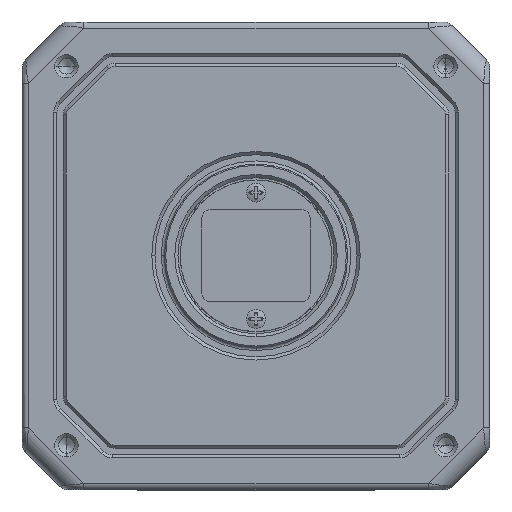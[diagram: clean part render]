
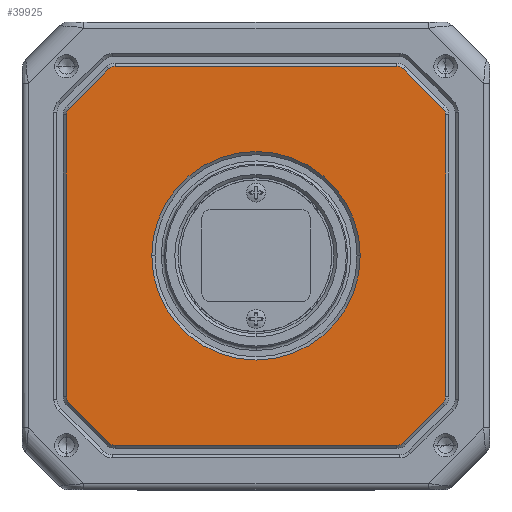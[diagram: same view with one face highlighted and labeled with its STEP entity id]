
A CAD part, top view. The second image highlights one B-rep face of the part: STEP entity #39925.
In plain terms, the highlighted planar face has unit normal (0, 0, 1).
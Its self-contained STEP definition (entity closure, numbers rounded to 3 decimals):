
#8772=CARTESIAN_POINT('',(28.5,-22.307,12.22));
#8773=DIRECTION('',(0.,0.,-1.));
#8774=DIRECTION('',(1.,0.,0.));
#8775=AXIS2_PLACEMENT_3D('',#8772,#8773,#8774);
#8777=DIRECTION('',(-0.707,-0.707,0.));
#8778=VECTOR('',#8777,8.758);
#8779=CARTESIAN_POINT('',(29.561,-23.368,12.22));
#8780=LINE('',#8779,#8778);
#8781=CARTESIAN_POINT('',(22.307,-28.5,12.22));
#8782=DIRECTION('',(0.,0.,-1.));
#8783=DIRECTION('',(0.707,-0.707,0.));
#8784=AXIS2_PLACEMENT_3D('',#8781,#8782,#8783);
#8786=DIRECTION('',(-1.,0.,0.));
#8787=VECTOR('',#8786,44.615);
#8788=CARTESIAN_POINT('',(22.307,-30.,12.22));
#8789=LINE('',#8788,#8787);
#8790=CARTESIAN_POINT('',(-22.307,-28.5,12.22));
#8791=DIRECTION('',(0.,0.,-1.));
#8792=DIRECTION('',(0.,-1.,0.));
#8793=AXIS2_PLACEMENT_3D('',#8790,#8791,#8792);
#8795=DIRECTION('',(-0.707,0.707,0.));
#8796=VECTOR('',#8795,8.758);
#8797=CARTESIAN_POINT('',(-23.368,-29.561,
12.22));
#8798=LINE('',#8797,#8796);
#8799=CARTESIAN_POINT('',(-28.5,-22.307,12.22));
#8800=DIRECTION('',(0.,0.,-1.));
#8801=DIRECTION('',(-0.707,-0.707,0.));
#8802=AXIS2_PLACEMENT_3D('',#8799,#8800,#8801);
#8804=DIRECTION('',(0.,1.,0.));
#8805=VECTOR('',#8804,44.615);
#8806=CARTESIAN_POINT('',(-30.,-22.307,
12.22));
#8807=LINE('',#8806,#8805);
#8808=CARTESIAN_POINT('',(-28.5,22.307,12.22));
#8809=DIRECTION('',(0.,0.,-1.));
#8810=DIRECTION('',(-1.,0.,0.));
#8811=AXIS2_PLACEMENT_3D('',#8808,#8809,#8810);
#8813=DIRECTION('',(0.707,0.707,0.));
#8814=VECTOR('',#8813,8.758);
#8815=CARTESIAN_POINT('',(-29.561,23.368,12.22));
#8816=LINE('',#8815,#8814);
#8817=CARTESIAN_POINT('',(-22.307,28.5,12.22));
#8818=DIRECTION('',(0.,0.,-1.));
#8819=DIRECTION('',(-0.707,0.707,0.));
#8820=AXIS2_PLACEMENT_3D('',#8817,#8818,#8819);
#8822=DIRECTION('',(1.,0.,0.));
#8823=VECTOR('',#8822,44.615);
#8824=CARTESIAN_POINT('',(-22.307,30.,12.22));
#8825=LINE('',#8824,#8823);
#8826=CARTESIAN_POINT('',(22.307,28.5,12.22));
#8827=DIRECTION('',(0.,0.,-1.));
#8828=DIRECTION('',(0.,1.,0.));
#8829=AXIS2_PLACEMENT_3D('',#8826,#8827,#8828);
#8831=DIRECTION('',(0.707,-0.707,0.));
#8832=VECTOR('',#8831,8.758);
#8833=CARTESIAN_POINT('',(23.368,29.561,12.22));
#8834=LINE('',#8833,#8832);
#8835=CARTESIAN_POINT('',(28.5,22.307,12.22));
#8836=DIRECTION('',(0.,0.,-1.));
#8837=DIRECTION('',(0.707,0.707,0.));
#8838=AXIS2_PLACEMENT_3D('',#8835,#8836,#8837);
#8840=DIRECTION('',(0.,-1.,0.));
#8841=VECTOR('',#8840,44.615);
#8842=CARTESIAN_POINT('',(30.,22.307,12.22));
#8843=LINE('',#8842,#8841);
#8844=CARTESIAN_POINT('',(0.,0.,12.22));
#8845=DIRECTION('',(0.,0.,1.));
#8846=DIRECTION('',(1.,0.,0.));
#8847=AXIS2_PLACEMENT_3D('',#8844,#8845,#8846);
#8849=CARTESIAN_POINT('',(0.,0.,12.22));
#8850=DIRECTION('',(0.,0.,1.));
#8851=DIRECTION('',(0.,1.,0.));
#8852=AXIS2_PLACEMENT_3D('',#8849,#8850,#8851);
#8854=CARTESIAN_POINT('',(0.,0.,12.22));
#8855=DIRECTION('',(0.,0.,1.));
#8856=DIRECTION('',(-1.,0.,0.));
#8857=AXIS2_PLACEMENT_3D('',#8854,#8855,#8856);
#8859=CARTESIAN_POINT('',(0.,0.,12.22));
#8860=DIRECTION('',(0.,0.,1.));
#8861=DIRECTION('',(0.,-1.,0.));
#8862=AXIS2_PLACEMENT_3D('',#8859,#8860,#8861);
#26217=CARTESIAN_POINT('',(30.,-22.307,12.22));
#26218=CARTESIAN_POINT('',(29.561,-23.368,12.22));
#26219=VERTEX_POINT('',#26217);
#26220=VERTEX_POINT('',#26218);
#26221=CARTESIAN_POINT('',(23.368,-29.561,
12.22));
#26222=VERTEX_POINT('',#26221);
#26223=CARTESIAN_POINT('',(22.307,-30.,12.22));
#26224=VERTEX_POINT('',#26223);
#26225=CARTESIAN_POINT('',(-22.307,-30.,
12.22));
#26226=VERTEX_POINT('',#26225);
#26227=CARTESIAN_POINT('',(-23.368,-29.561,12.22));
#26228=VERTEX_POINT('',#26227);
#26229=CARTESIAN_POINT('',(-29.561,-23.368,
12.22));
#26230=VERTEX_POINT('',#26229);
#26231=CARTESIAN_POINT('',(-30.,-22.307,12.22));
#26232=VERTEX_POINT('',#26231);
#26233=CARTESIAN_POINT('',(-30.,22.307,
12.22));
#26234=VERTEX_POINT('',#26233);
#26235=CARTESIAN_POINT('',(-29.561,23.368,12.22));
#26236=VERTEX_POINT('',#26235);
#26237=CARTESIAN_POINT('',(-23.368,29.561,
12.22));
#26238=VERTEX_POINT('',#26237);
#26239=CARTESIAN_POINT('',(-22.307,30.,12.22));
#26240=VERTEX_POINT('',#26239);
#26241=CARTESIAN_POINT('',(22.307,30.,12.22));
#26242=VERTEX_POINT('',#26241);
#26243=CARTESIAN_POINT('',(23.368,29.561,12.22));
#26244=VERTEX_POINT('',#26243);
#26245=CARTESIAN_POINT('',(29.561,23.368,12.22));
#26246=VERTEX_POINT('',#26245);
#26247=CARTESIAN_POINT('',(30.,22.307,12.22));
#26248=VERTEX_POINT('',#26247);
#26249=CARTESIAN_POINT('',(16.5,0.,12.22));
#26250=CARTESIAN_POINT('',(0.,16.5,12.22));
#26251=VERTEX_POINT('',#26249);
#26252=VERTEX_POINT('',#26250);
#26253=CARTESIAN_POINT('',(-16.5,0.,12.22));
#26254=VERTEX_POINT('',#26253);
#26255=CARTESIAN_POINT('',(0.,-16.5,12.22));
#26256=VERTEX_POINT('',#26255);
#39877=CARTESIAN_POINT('',(0.,0.,12.22));
#39878=DIRECTION('',(0.,0.,1.));
#39879=DIRECTION('',(0.,1.,0.));
#39880=AXIS2_PLACEMENT_3D('',#39877,#39878,#39879);
#39881=PLANE('',#39880);
#39882=ORIENTED_EDGE('',*,*,#39867,.T.);
#39884=ORIENTED_EDGE('',*,*,#39883,.T.);
#39886=ORIENTED_EDGE('',*,*,#39885,.T.);
#39888=ORIENTED_EDGE('',*,*,#39887,.T.);
#39890=ORIENTED_EDGE('',*,*,#39889,.T.);
#39892=ORIENTED_EDGE('',*,*,#39891,.T.);
#39894=ORIENTED_EDGE('',*,*,#39893,.T.);
#39896=ORIENTED_EDGE('',*,*,#39895,.T.);
#39898=ORIENTED_EDGE('',*,*,#39897,.T.);
#39900=ORIENTED_EDGE('',*,*,#39899,.T.);
#39902=ORIENTED_EDGE('',*,*,#39901,.T.);
#39904=ORIENTED_EDGE('',*,*,#39903,.T.);
#39906=ORIENTED_EDGE('',*,*,#39905,.T.);
#39908=ORIENTED_EDGE('',*,*,#39907,.T.);
#39910=ORIENTED_EDGE('',*,*,#39909,.T.);
#39912=ORIENTED_EDGE('',*,*,#39911,.T.);
#39913=EDGE_LOOP('',(#39882,#39884,#39886,#39888,#39890,#39892,#39894,#39896,
#39898,#39900,#39902,#39904,#39906,#39908,#39910,#39912));
#39914=FACE_OUTER_BOUND('',#39913,.F.);
#39916=ORIENTED_EDGE('',*,*,#39915,.T.);
#39918=ORIENTED_EDGE('',*,*,#39917,.T.);
#39920=ORIENTED_EDGE('',*,*,#39919,.T.);
#39922=ORIENTED_EDGE('',*,*,#39921,.T.);
#39923=EDGE_LOOP('',(#39916,#39918,#39920,#39922));
#39924=FACE_BOUND('',#39923,.F.);
#39925=ADVANCED_FACE('',(#39914,#39924),#39881,.T.);
#8776=CIRCLE('',#8775,1.5);
#8785=CIRCLE('',#8784,1.5);
#8794=CIRCLE('',#8793,1.5);
#8803=CIRCLE('',#8802,1.5);
#8812=CIRCLE('',#8811,1.5);
#8821=CIRCLE('',#8820,1.5);
#8830=CIRCLE('',#8829,1.5);
#8839=CIRCLE('',#8838,1.5);
#8848=CIRCLE('',#8847,16.5);
#8853=CIRCLE('',#8852,16.5);
#8858=CIRCLE('',#8857,16.5);
#8863=CIRCLE('',#8862,16.5);
#39867=EDGE_CURVE('',#26219,#26220,#8776,.T.);
#39883=EDGE_CURVE('',#26220,#26222,#8780,.T.);
#39885=EDGE_CURVE('',#26222,#26224,#8785,.T.);
#39887=EDGE_CURVE('',#26224,#26226,#8789,.T.);
#39889=EDGE_CURVE('',#26226,#26228,#8794,.T.);
#39891=EDGE_CURVE('',#26228,#26230,#8798,.T.);
#39893=EDGE_CURVE('',#26230,#26232,#8803,.T.);
#39895=EDGE_CURVE('',#26232,#26234,#8807,.T.);
#39897=EDGE_CURVE('',#26234,#26236,#8812,.T.);
#39899=EDGE_CURVE('',#26236,#26238,#8816,.T.);
#39901=EDGE_CURVE('',#26238,#26240,#8821,.T.);
#39903=EDGE_CURVE('',#26240,#26242,#8825,.T.);
#39905=EDGE_CURVE('',#26242,#26244,#8830,.T.);
#39907=EDGE_CURVE('',#26244,#26246,#8834,.T.);
#39909=EDGE_CURVE('',#26246,#26248,#8839,.T.);
#39911=EDGE_CURVE('',#26248,#26219,#8843,.T.);
#39915=EDGE_CURVE('',#26251,#26252,#8848,.T.);
#39917=EDGE_CURVE('',#26252,#26254,#8853,.T.);
#39919=EDGE_CURVE('',#26254,#26256,#8858,.T.);
#39921=EDGE_CURVE('',#26256,#26251,#8863,.T.);
